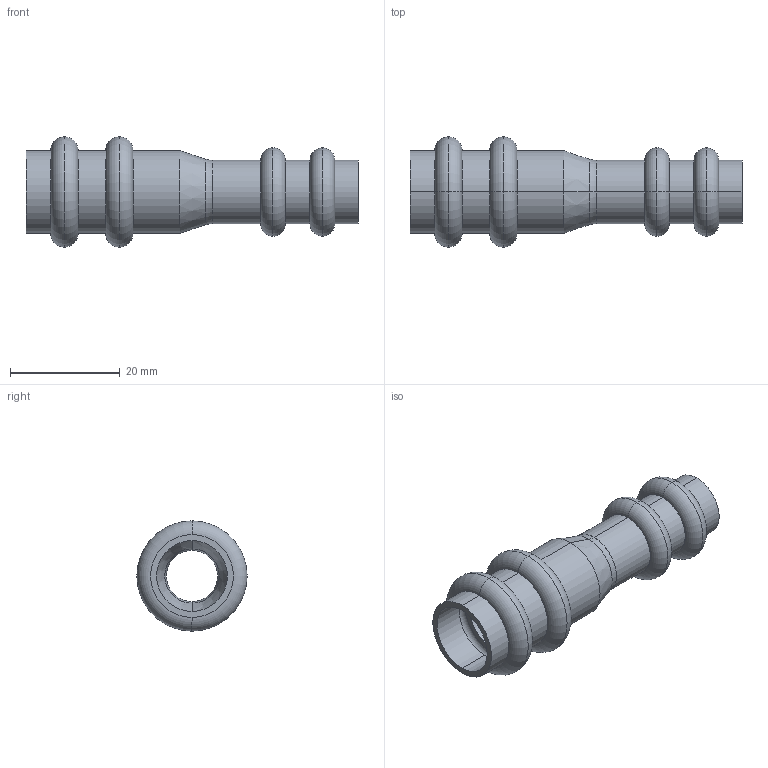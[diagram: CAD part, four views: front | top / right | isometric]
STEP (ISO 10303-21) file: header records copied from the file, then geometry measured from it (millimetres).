
FILE_DESCRIPTION(('starvars output'),'1');
FILE_NAME('cv20240422105244000011583.stp','10:52:44 2024/04/22',('Thomas Industrial Network Germany GmbH'),(' '),'Spatial InterOp 3D',' ',' ');
FILE_SCHEMA(('AUTOMOTIVE_DESIGN { 1 0 10303 214 3 1 1 }'));
Length unit declared in the file: millimetre
Products named in the file (1): 1
Bounding box: 60.5 x 20.1 x 20.1 mm (x, y, z)
Volume: 3309.2 mm3; surface area: 6232.7 mm2
Topology: 1 solids, 1 shells, 80 faces, 160 edges, 96 vertices
Faces by surface type: torus 36, cylinder 24, plane 16, cone 4
Entity records: 2788 total; most frequent: DIRECTION 454, CARTESIAN_POINT 337, ORIENTED_EDGE 320, AXIS2_PLACEMENT_3D 213, EDGE_CURVE 160, CIRCLE 132, EDGE_LOOP 96, VERTEX_POINT 96
